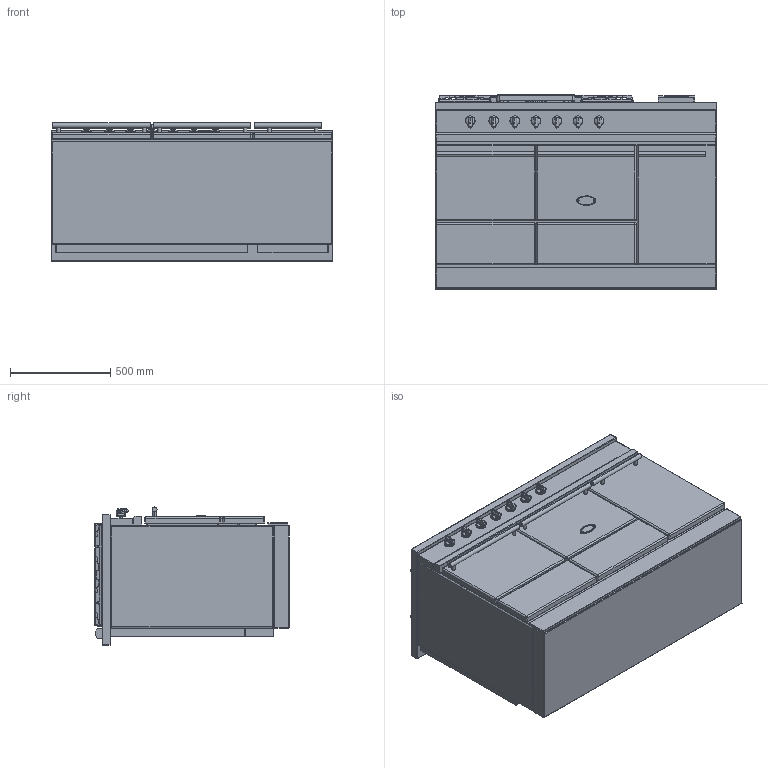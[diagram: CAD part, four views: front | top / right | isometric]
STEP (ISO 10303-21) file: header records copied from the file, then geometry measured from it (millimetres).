
FILE_DESCRIPTION((''),'2;1');
FILE_NAME('LMCF1452D_ASM','2022-04-13T11:34:57',('stagiaire'),(''),'CREO PARAMETRIC BY PTC INC, 2021424','CREO PARAMETRIC BY PTC INC, 2021424','');
FILE_SCHEMA(('AP203_CONFIGURATION_CONTROLLED_3D_DESIGN_OF_MECHANICAL_PARTS_AND_ASSEMBLIES_MIM_LF { 1 0 10303 403 2 1 2 }'));
Products named in the file (22): BASE_EXPORT_CLUNY_1400D_MODERN; 65064012; 19150009; 88064012_ASM; 65049009; 65650001; BASE_EXPORT_CLUNY_1400D_MODERN_ASM; TABLE_1405D_CLASSIQUE; 3KW; 5KW; 1_5KW; 4KW; 65062008; 65062012; 65149005; 90000549_ASM; 6537023; 90000565_ASM; CHEMINEE_2020_LG371_EXPORT_STEP; CHEMINEE_2020_LG182_EXPORT_STEP; TABLE_1405D_TRADITION_ASM; LMCF1452D_ASM
Assembly tree (37 placements, depth 4):
  LMCF1452D_ASM
    BASE_EXPORT_CLUNY_1400D_MODERN_ASM
      BASE_EXPORT_CLUNY_1400D_MODERN
      88064012_ASM  x7
        65064012
        19150009
      65049009
      65650001
    TABLE_1405D_TRADITION_ASM
      TABLE_1405D_CLASSIQUE
      3KW  x2
      5KW
      1_5KW
      4KW
      90000549_ASM
        65062008
        65062012
        65149005  x4
      90000565_ASM  x2
        6537023
        65149005
      CHEMINEE_2020_LG371_EXPORT_STEP  x2
      CHEMINEE_2020_LG182_EXPORT_STEP
Bounding box: 1405 x 967 x 687.75 mm (x, y, z)
Volume: 509741350.3 mm3; surface area: 13058607.8 mm2
Topology: 46 solids, 46 shells, 7167 faces, 19416 edges, 12319 vertices
Faces by surface type: plane 2968, cylinder 2102, bspline 1164, sphere 394, cone 263, torus 234, extrusion 42
Entity records: 209482 total; most frequent: CARTESIAN_POINT 59635, ORIENTED_EDGE 24436, DIRECTION 22681, EDGE_CURVE 12218, PRESENTATION_STYLE_ASSIGNMENT 8894, STYLED_ITEM 8894, CURVE_STYLE 8737, VECTOR 8434
